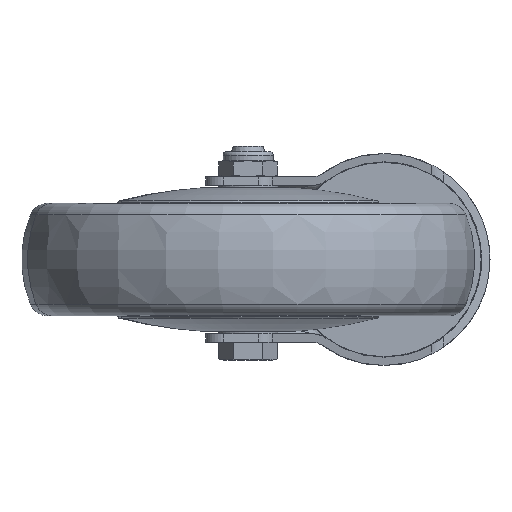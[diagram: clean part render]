
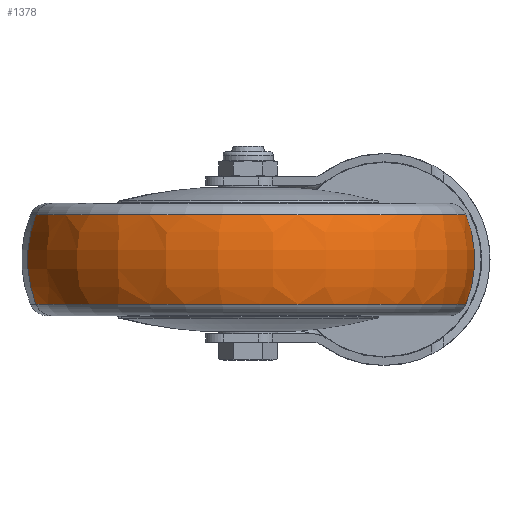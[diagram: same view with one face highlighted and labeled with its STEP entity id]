
A CAD part, front view. The second image highlights one B-rep face of the part: STEP entity #1378.
In plain terms, the highlighted toroidal (fillet/blend) face has major radius 28.5 mm and minor radius 34 mm.
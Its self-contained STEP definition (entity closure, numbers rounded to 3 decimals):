
#1187 = VERTEX_POINT ( 'NONE', #1943 ) ;
#1254 = TOROIDAL_SURFACE ( 'NONE', #8589, 28.5, 34. ) ;
#1378 = ADVANCED_FACE ( 'NONE', ( #10015 ), #1254, .T. ) ;
#1422 = EDGE_CURVE ( 'NONE', #1796, #6234, #10775, .T. ) ;
#1659 = DIRECTION ( 'NONE',  ( 0., 0., 1. ) ) ;
#1725 = DIRECTION ( 'NONE',  ( 0., 0., -1. ) ) ;
#1796 = VERTEX_POINT ( 'NONE', #4222 ) ;
#1943 = CARTESIAN_POINT ( 'NONE',  ( -12.31, 0., 60.193 ) ) ;
#2127 = EDGE_LOOP ( 'NONE', ( #6247, #6144, #8015, #10117 ) ) ;
#2586 = CARTESIAN_POINT ( 'NONE',  ( 0., 0., 28.5 ) ) ;
#2983 = CIRCLE ( 'NONE', #7345, 34. ) ;
#3325 = DIRECTION ( 'NONE',  ( 0., 0., -1. ) ) ;
#3650 = CARTESIAN_POINT ( 'NONE',  ( -12.31, 0., -60.193 ) ) ;
#3785 = CIRCLE ( 'NONE', #9526, 60.193 ) ;
#4222 = CARTESIAN_POINT ( 'NONE',  ( 12.31, 0., 60.193 ) ) ;
#4239 = DIRECTION ( 'NONE',  ( 0., 0., -1. ) ) ;
#4316 = DIRECTION ( 'NONE',  ( 0., 1., 0. ) ) ;
#4427 = AXIS2_PLACEMENT_3D ( 'NONE', #6231, #9880, #4239 ) ;
#5912 = AXIS2_PLACEMENT_3D ( 'NONE', #2586, #4316, #1659 ) ;
#6144 = ORIENTED_EDGE ( 'NONE', *, *, #7317, .T. ) ;
#6231 = CARTESIAN_POINT ( 'NONE',  ( 12.31, 0., 0. ) ) ;
#6234 = VERTEX_POINT ( 'NONE', #10825 ) ;
#6247 = ORIENTED_EDGE ( 'NONE', *, *, #7661, .F. ) ;
#6381 = CARTESIAN_POINT ( 'NONE',  ( -12.31, 0., 0. ) ) ;
#6429 = CARTESIAN_POINT ( 'NONE',  ( 0., 0., -28.5 ) ) ;
#6792 = VERTEX_POINT ( 'NONE', #3650 ) ;
#7270 = CARTESIAN_POINT ( 'NONE',  ( 0., 0., 0. ) ) ;
#7317 = EDGE_CURVE ( 'NONE', #1187, #6792, #3785, .T. ) ;
#7345 = AXIS2_PLACEMENT_3D ( 'NONE', #6429, #9043, #3325 ) ;
#7645 = EDGE_CURVE ( 'NONE', #6792, #6234, #2983, .T. ) ;
#7661 = EDGE_CURVE ( 'NONE', #1187, #1796, #11271, .T. ) ;
#8015 = ORIENTED_EDGE ( 'NONE', *, *, #7645, .T. ) ;
#8022 = DIRECTION ( 'NONE',  ( 1., 0., 0. ) ) ;
#8589 = AXIS2_PLACEMENT_3D ( 'NONE', #7270, #8022, #10945 ) ;
#9043 = DIRECTION ( 'NONE',  ( 0., -1., 0. ) ) ;
#9526 = AXIS2_PLACEMENT_3D ( 'NONE', #6381, #10177, #1725 ) ;
#9880 = DIRECTION ( 'NONE',  ( 1., 0., 0. ) ) ;
#10015 = FACE_OUTER_BOUND ( 'NONE', #2127, .T. ) ;
#10117 = ORIENTED_EDGE ( 'NONE', *, *, #1422, .F. ) ;
#10177 = DIRECTION ( 'NONE',  ( 1., 0., 0. ) ) ;
#10775 = CIRCLE ( 'NONE', #4427, 60.193 ) ;
#10825 = CARTESIAN_POINT ( 'NONE',  ( 12.31, 0., -60.193 ) ) ;
#10945 = DIRECTION ( 'NONE',  ( 0., 0., -1. ) ) ;
#11271 = CIRCLE ( 'NONE', #5912, 34. ) ;
